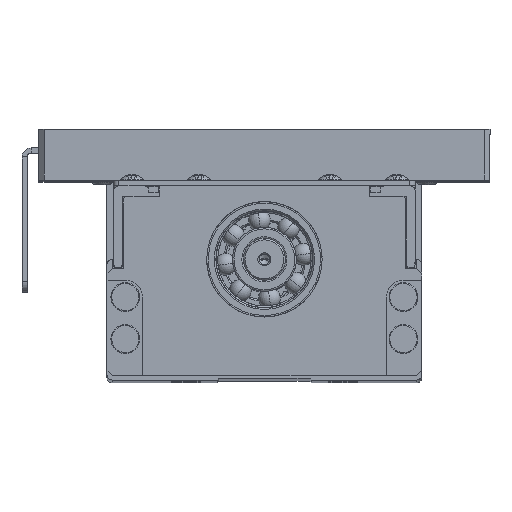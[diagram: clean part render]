
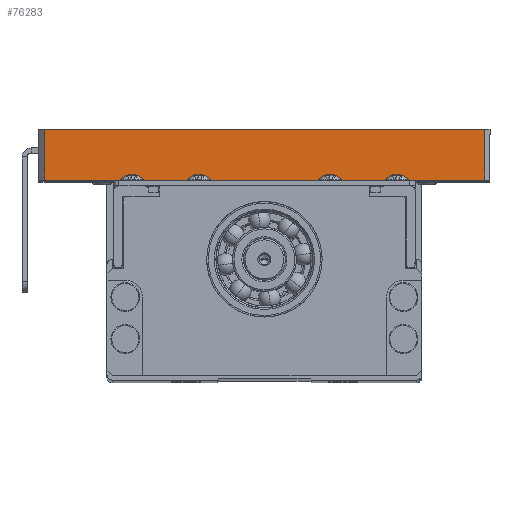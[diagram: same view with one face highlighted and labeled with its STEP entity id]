
A CAD part, top view. The second image highlights one B-rep face of the part: STEP entity #76283.
In plain terms, the highlighted planar face has unit normal (0, 0, 1).
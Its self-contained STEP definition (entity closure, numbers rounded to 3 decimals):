
#601 = LINE ( 'NONE', #9328, #19763 ) ;
#4310 = VERTEX_POINT ( 'NONE', #11647 ) ;
#5119 = LINE ( 'NONE', #11910, #48428 ) ;
#5202 = AXIS2_PLACEMENT_3D ( 'NONE', #57209, #57691, #65464 ) ;
#9328 = CARTESIAN_POINT ( 'NONE',  ( 43., 49., 40.75 ) ) ;
#11647 = CARTESIAN_POINT ( 'NONE',  ( -42., 49., 40.75 ) ) ;
#11863 = DIRECTION ( 'NONE',  ( 0., 1., 0. ) ) ;
#11910 = CARTESIAN_POINT ( 'NONE',  ( -43., 39.3, 40.75 ) ) ;
#15373 = EDGE_CURVE ( 'NONE', #4310, #82149, #87177, .T. ) ;
#19763 = VECTOR ( 'NONE', #83645, 1000. ) ;
#20147 = DIRECTION ( 'NONE',  ( -1., 0., 0. ) ) ;
#21249 = VERTEX_POINT ( 'NONE', #86721 ) ;
#25637 = VECTOR ( 'NONE', #29817, 1000. ) ;
#27564 = PLANE ( 'NONE',  #5202 ) ;
#29817 = DIRECTION ( 'NONE',  ( 0., -1., 0. ) ) ;
#30143 = ORIENTED_EDGE ( 'NONE', *, *, #15373, .T. ) ;
#37461 = VERTEX_POINT ( 'NONE', #42691 ) ;
#42691 = CARTESIAN_POINT ( 'NONE',  ( 42., 49., 40.75 ) ) ;
#45536 = VECTOR ( 'NONE', #11863, 1000. ) ;
#48428 = VECTOR ( 'NONE', #20147, 1000. ) ;
#48810 = LINE ( 'NONE', #80317, #45536 ) ;
#52794 = ORIENTED_EDGE ( 'NONE', *, *, #95394, .T. ) ;
#53604 = ORIENTED_EDGE ( 'NONE', *, *, #88612, .F. ) ;
#57209 = CARTESIAN_POINT ( 'NONE',  ( 0., 49., 40.75 ) ) ;
#57691 = DIRECTION ( 'NONE',  ( 0., 0., 1. ) ) ;
#58034 = CARTESIAN_POINT ( 'NONE',  ( -42., 39.3, 40.75 ) ) ;
#65464 = DIRECTION ( 'NONE',  ( 1., 0., 0. ) ) ;
#65791 = EDGE_LOOP ( 'NONE', ( #53604, #52794, #78448, #30143 ) ) ;
#68243 = EDGE_CURVE ( 'NONE', #4310, #37461, #601, .T. ) ;
#71116 = CARTESIAN_POINT ( 'NONE',  ( -42., 39.3, 40.75 ) ) ;
#76283 = ADVANCED_FACE ( 'NONE', ( #94139 ), #27564, .T. ) ;
#78448 = ORIENTED_EDGE ( 'NONE', *, *, #68243, .F. ) ;
#80317 = CARTESIAN_POINT ( 'NONE',  ( 42., 49., 40.75 ) ) ;
#82149 = VERTEX_POINT ( 'NONE', #71116 ) ;
#83645 = DIRECTION ( 'NONE',  ( 1., 0., 0. ) ) ;
#86721 = CARTESIAN_POINT ( 'NONE',  ( 42., 39.3, 40.75 ) ) ;
#87177 = LINE ( 'NONE', #58034, #25637 ) ;
#88612 = EDGE_CURVE ( 'NONE', #21249, #82149, #5119, .T. ) ;
#94139 = FACE_OUTER_BOUND ( 'NONE', #65791, .T. ) ;
#95394 = EDGE_CURVE ( 'NONE', #21249, #37461, #48810, .T. ) ;
